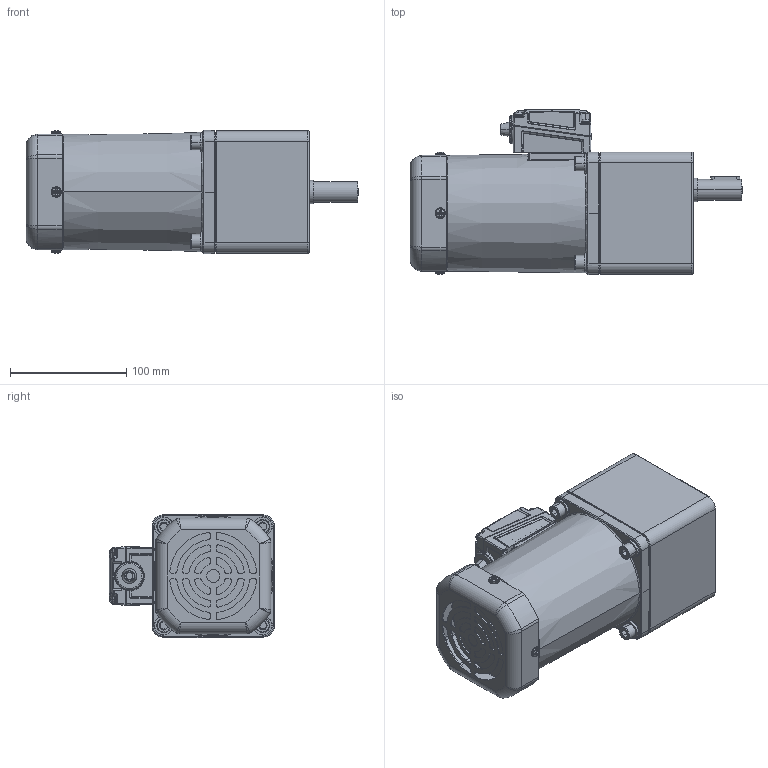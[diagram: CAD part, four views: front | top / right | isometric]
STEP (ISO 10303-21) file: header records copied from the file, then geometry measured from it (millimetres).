
FILE_DESCRIPTION( ('This file contains a STEP AP42 implementation' ,'as created by ZW3D STEP Interface translator.' ,'') ,'2;1' );
FILE_NAME( '200ys01-180.stp' ,'24 712.11 010', (''), ('ZWCAD Software Co.'), 'Version 1.0', 'ZW3D to STEP translator', '' );
FILE_SCHEMA(('AUTOMOTIVE_DESIGN { 1 0 10303 214 1 1 1 1 }'));
Length unit declared in the file: millimetre
Products named in the file (9): 0; 200ys01-180; 100YS200G_ASM; 100YS200G; YCX_6-200; 100GF-H-180_ASM; 100GF-H-180_1; 100GF-H-18_2; 3D-JXH-150_300
Assembly tree (7 placements, depth 3):
  0
  200ys01-180
    100YS200G_ASM
      100YS200G
      YCX_6-200
    100GF-H-180_ASM
      100GF-H-180_1
      100GF-H-18_2
    3D-JXH-150_300
Bounding box: 285 x 142.39 x 105.97 mm (x, y, z)
Volume: 1242909.4 mm3; surface area: 263395.4 mm2
Topology: 5 solids, 14 shells, 2423 faces, 5963 edges, 3653 vertices
Faces by surface type: cylinder 837, plane 662, bspline 635, torus 141, cone 120, sphere 28
Entity records: 121252 total; most frequent: CARTESIAN_POINT 67581, ORIENTED_EDGE 11886, DIRECTION 8968, EDGE_CURVE 5943, VERTEX_POINT 3653, AXIS2_PLACEMENT_3D 3512, EDGE_LOOP 2592, FACE_OUTER_BOUND 2423
